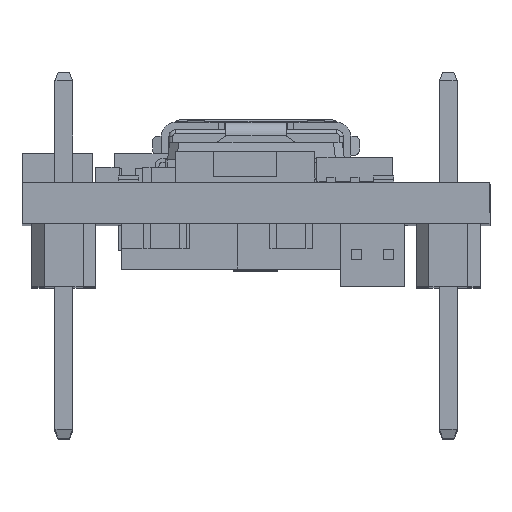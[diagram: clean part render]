
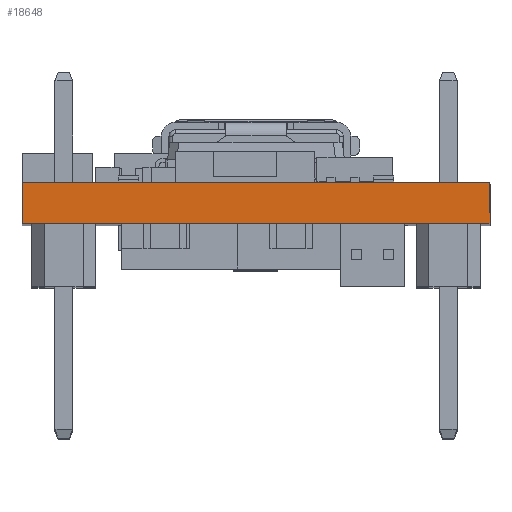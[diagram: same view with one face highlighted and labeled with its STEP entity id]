
A CAD part, top view. The second image highlights one B-rep face of the part: STEP entity #18648.
In plain terms, the highlighted planar face has unit normal (0, 0, 1).
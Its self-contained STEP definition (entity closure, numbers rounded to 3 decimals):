
#1826 = LINE ( 'NONE', #57667, #63613 ) ;
#3052 = EDGE_LOOP ( 'NONE', ( #84354, #5598, #43893, #72154 ) ) ;
#4997 = AXIS2_PLACEMENT_3D ( 'NONE', #45746, #61451, #84883 ) ;
#5598 = ORIENTED_EDGE ( 'NONE', *, *, #14311, .T. ) ;
#6100 = PLANE ( 'NONE',  #4997 ) ;
#8103 = VERTEX_POINT ( 'NONE', #14384 ) ;
#14311 = EDGE_CURVE ( 'NONE', #8103, #27331, #101199, .T. ) ;
#14384 = CARTESIAN_POINT ( 'NONE',  ( -9.271, 4.14, 25.146 ) ) ;
#18513 = EDGE_CURVE ( 'NONE', #69127, #30290, #57879, .T. ) ;
#18648 = ADVANCED_FACE ( 'NONE', ( #69779 ), #6100, .F. ) ;
#19448 = DIRECTION ( 'NONE',  ( 1., 0., 0. ) ) ;
#27331 = VERTEX_POINT ( 'NONE', #91881 ) ;
#29935 = VECTOR ( 'NONE', #51541, 1000. ) ;
#30290 = VERTEX_POINT ( 'NONE', #41929 ) ;
#41929 = CARTESIAN_POINT ( 'NONE',  ( 9.271, 2.5, 25.146 ) ) ;
#42145 = CARTESIAN_POINT ( 'NONE',  ( 9.271, 61.882, 25.146 ) ) ;
#43893 = ORIENTED_EDGE ( 'NONE', *, *, #79690, .T. ) ;
#45152 = VECTOR ( 'NONE', #52227, 1000. ) ;
#45746 = CARTESIAN_POINT ( 'NONE',  ( -9.271, 61.882, 25.146 ) ) ;
#51541 = DIRECTION ( 'NONE',  ( 0., -1., 0. ) ) ;
#52227 = DIRECTION ( 'NONE',  ( 0., -1., 0. ) ) ;
#57667 = CARTESIAN_POINT ( 'NONE',  ( -9.271, 2.5, 25.146 ) ) ;
#57879 = LINE ( 'NONE', #42145, #29935 ) ;
#61451 = DIRECTION ( 'NONE',  ( 0., 0., -1. ) ) ;
#63613 = VECTOR ( 'NONE', #79176, 1000. ) ;
#67958 = LINE ( 'NONE', #91427, #86702 ) ;
#69127 = VERTEX_POINT ( 'NONE', #92714 ) ;
#69779 = FACE_OUTER_BOUND ( 'NONE', #3052, .T. ) ;
#72154 = ORIENTED_EDGE ( 'NONE', *, *, #18513, .F. ) ;
#79176 = DIRECTION ( 'NONE',  ( 1., 0., 0. ) ) ;
#79690 = EDGE_CURVE ( 'NONE', #27331, #30290, #1826, .T. ) ;
#84354 = ORIENTED_EDGE ( 'NONE', *, *, #94920, .F. ) ;
#84883 = DIRECTION ( 'NONE',  ( -1., 0., 0. ) ) ;
#86702 = VECTOR ( 'NONE', #19448, 1000. ) ;
#91427 = CARTESIAN_POINT ( 'NONE',  ( -9.271, 4.14, 25.146 ) ) ;
#91881 = CARTESIAN_POINT ( 'NONE',  ( -9.271, 2.5, 25.146 ) ) ;
#92714 = CARTESIAN_POINT ( 'NONE',  ( 9.271, 4.14, 25.146 ) ) ;
#92867 = CARTESIAN_POINT ( 'NONE',  ( -9.271, 61.882, 25.146 ) ) ;
#94920 = EDGE_CURVE ( 'NONE', #8103, #69127, #67958, .T. ) ;
#101199 = LINE ( 'NONE', #92867, #45152 ) ;
